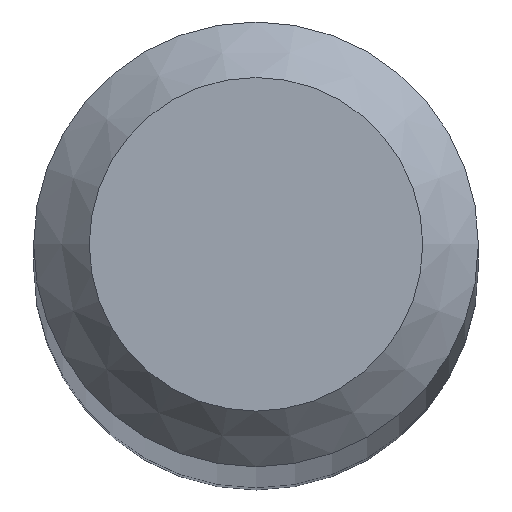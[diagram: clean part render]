
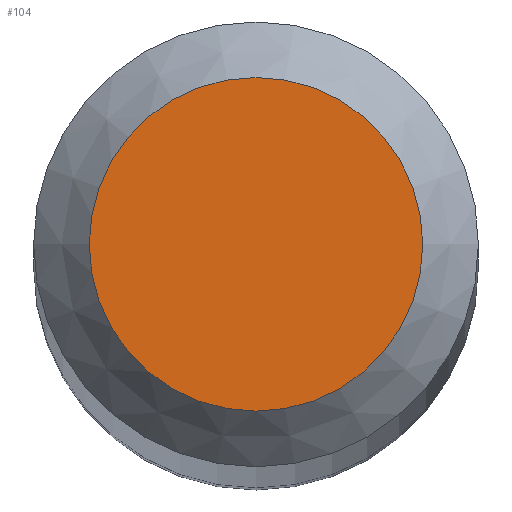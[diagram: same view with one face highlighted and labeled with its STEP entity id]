
A CAD part, top view. The second image highlights one B-rep face of the part: STEP entity #104.
In plain terms, the highlighted planar face has unit normal (0, 0, 1).
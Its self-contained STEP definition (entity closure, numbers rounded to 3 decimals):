
#88=CARTESIAN_POINT('',(1.5,0.0,120.0));
#89=DIRECTION('',(0.0,0.0,1.0));
#90=DIRECTION('',(1.0,0.0,0.0));
#91=AXIS2_PLACEMENT_3D('',#88,#89,#90);
#92=PLANE('',#91);
#93=CARTESIAN_POINT('',(-1.5,0.0,120.0));
#94=VERTEX_POINT('',#93);
#95=CARTESIAN_POINT('',(0.0,0.0,120.0));
#96=DIRECTION('',(0.0,0.0,-1.0));
#97=DIRECTION('',(-1.0,0.0,0.0));
#98=AXIS2_PLACEMENT_3D('',#95,#96,#97);
#99=CIRCLE('',#98,1.5);
#100=EDGE_CURVE('',#94,#94,#99,.T.);
#101=ORIENTED_EDGE('',*,*,#100,.F.);
#102=EDGE_LOOP('',(#101));
#103=FACE_OUTER_BOUND('',#102,.T.);
#104=ADVANCED_FACE('',(#103),#92,.T.);
